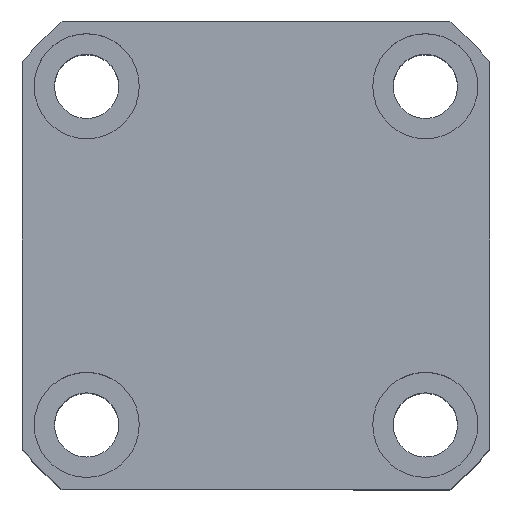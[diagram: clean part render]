
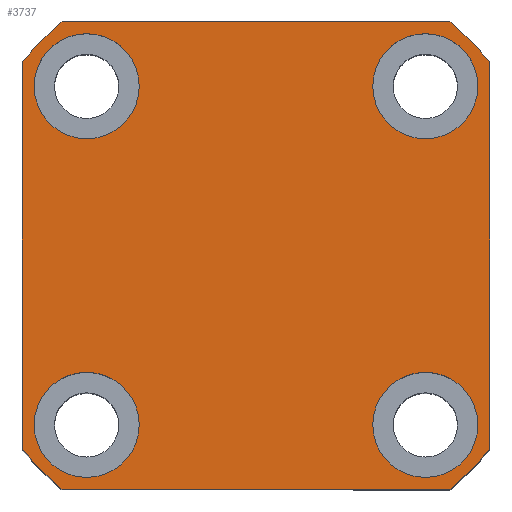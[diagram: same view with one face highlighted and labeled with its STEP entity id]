
A CAD part, top view. The second image highlights one B-rep face of the part: STEP entity #3737.
In plain terms, the highlighted planar face has unit normal (0, 0, 1).
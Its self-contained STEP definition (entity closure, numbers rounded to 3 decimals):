
#2 = VECTOR ( 'NONE', #3119, 1000. ) ;
#12 = AXIS2_PLACEMENT_3D ( 'NONE', #10689, #5508, #8918 ) ;
#29 = CIRCLE ( 'NONE', #6153, 9. ) ;
#152 = PLANE ( 'NONE',  #5388 ) ;
#227 = EDGE_CURVE ( 'NONE', #9341, #606, #569, .T. ) ;
#243 = CARTESIAN_POINT ( 'NONE',  ( 40., -33.226, 45. ) ) ;
#414 = EDGE_CURVE ( 'NONE', #7419, #4536, #8123, .T. ) ;
#569 = CIRCLE ( 'NONE', #4795, 9. ) ;
#595 = CIRCLE ( 'NONE', #5329, 52. ) ;
#606 = VERTEX_POINT ( 'NONE', #4199 ) ;
#658 = AXIS2_PLACEMENT_3D ( 'NONE', #5706, #5672, #10005 ) ;
#791 = EDGE_CURVE ( 'NONE', #5986, #887, #8665, .T. ) ;
#887 = VERTEX_POINT ( 'NONE', #243 ) ;
#917 = CIRCLE ( 'NONE', #5094, 9. ) ;
#1137 = DIRECTION ( 'NONE',  ( 0., 0., 1. ) ) ;
#1182 = AXIS2_PLACEMENT_3D ( 'NONE', #5494, #10558, #9691 ) ;
#1312 = ORIENTED_EDGE ( 'NONE', *, *, #5547, .F. ) ;
#1689 = CIRCLE ( 'NONE', #2304, 9. ) ;
#1741 = CARTESIAN_POINT ( 'NONE',  ( 20., 29., 45. ) ) ;
#1809 = EDGE_CURVE ( 'NONE', #5968, #6882, #2113, .T. ) ;
#1832 = DIRECTION ( 'NONE',  ( 1., 0., 0. ) ) ;
#1875 = AXIS2_PLACEMENT_3D ( 'NONE', #6883, #8659, #9462 ) ;
#1931 = DIRECTION ( 'NONE',  ( -1., 0., 0. ) ) ;
#1936 = ORIENTED_EDGE ( 'NONE', *, *, #10429, .T. ) ;
#2113 = CIRCLE ( 'NONE', #1875, 52. ) ;
#2130 = DIRECTION ( 'NONE',  ( 1., 0., 0. ) ) ;
#2181 = EDGE_CURVE ( 'NONE', #887, #2470, #4858, .T. ) ;
#2229 = CARTESIAN_POINT ( 'NONE',  ( -29., 29., 45. ) ) ;
#2304 = AXIS2_PLACEMENT_3D ( 'NONE', #4127, #2460, #3331 ) ;
#2305 = DIRECTION ( 'NONE',  ( 0., 0., 1. ) ) ;
#2342 = CARTESIAN_POINT ( 'NONE',  ( 0., 0., 45. ) ) ;
#2454 = CARTESIAN_POINT ( 'NONE',  ( -33.226, -40., 45. ) ) ;
#2460 = DIRECTION ( 'NONE',  ( 0., 0., 1. ) ) ;
#2470 = VERTEX_POINT ( 'NONE', #5640 ) ;
#2742 = DIRECTION ( 'NONE',  ( 1., 0., 0. ) ) ;
#2813 = ORIENTED_EDGE ( 'NONE', *, *, #6667, .T. ) ;
#2830 = DIRECTION ( 'NONE',  ( 1., 0., 0. ) ) ;
#2844 = ORIENTED_EDGE ( 'NONE', *, *, #1809, .T. ) ;
#2847 = DIRECTION ( 'NONE',  ( 0., -1., 0. ) ) ;
#2937 = ORIENTED_EDGE ( 'NONE', *, *, #227, .F. ) ;
#2954 = VERTEX_POINT ( 'NONE', #2454 ) ;
#3058 = EDGE_LOOP ( 'NONE', ( #7918, #10050 ) ) ;
#3119 = DIRECTION ( 'NONE',  ( 0., 1., 0. ) ) ;
#3331 = DIRECTION ( 'NONE',  ( 1., 0., 0. ) ) ;
#3344 = CARTESIAN_POINT ( 'NONE',  ( -38., 29., 45. ) ) ;
#3356 = CARTESIAN_POINT ( 'NONE',  ( 0., 0., 45. ) ) ;
#3391 = CARTESIAN_POINT ( 'NONE',  ( 38., 29., 45. ) ) ;
#3398 = AXIS2_PLACEMENT_3D ( 'NONE', #6262, #3691, #8745 ) ;
#3424 = FACE_OUTER_BOUND ( 'NONE', #5658, .T. ) ;
#3511 = EDGE_CURVE ( 'NONE', #606, #9341, #29, .T. ) ;
#3691 = DIRECTION ( 'NONE',  ( 0., 0., 1. ) ) ;
#3712 = DIRECTION ( 'NONE',  ( 0., 0., 1. ) ) ;
#3737 = ADVANCED_FACE ( 'NONE', ( #6167, #7888, #5384, #5643, #3424 ), #152, .T. ) ;
#3743 = CARTESIAN_POINT ( 'NONE',  ( -20., -29., 45. ) ) ;
#3771 = DIRECTION ( 'NONE',  ( 0., 0., 1. ) ) ;
#4127 = CARTESIAN_POINT ( 'NONE',  ( 29., 29., 45. ) ) ;
#4199 = CARTESIAN_POINT ( 'NONE',  ( -20., 29., 45. ) ) ;
#4536 = VERTEX_POINT ( 'NONE', #6488 ) ;
#4586 = CIRCLE ( 'NONE', #9563, 52. ) ;
#4795 = AXIS2_PLACEMENT_3D ( 'NONE', #6782, #1137, #6082 ) ;
#4858 = LINE ( 'NONE', #7332, #2 ) ;
#4983 = CARTESIAN_POINT ( 'NONE',  ( -40., -33.226, 45. ) ) ;
#5048 = AXIS2_PLACEMENT_3D ( 'NONE', #6823, #10211, #1832 ) ;
#5094 = AXIS2_PLACEMENT_3D ( 'NONE', #9497, #3712, #2830 ) ;
#5150 = VERTEX_POINT ( 'NONE', #3743 ) ;
#5214 = LINE ( 'NONE', #5270, #7978 ) ;
#5270 = CARTESIAN_POINT ( 'NONE',  ( -33.226, 40., 45. ) ) ;
#5329 = AXIS2_PLACEMENT_3D ( 'NONE', #7942, #3771, #2130 ) ;
#5384 = FACE_BOUND ( 'NONE', #10698, .T. ) ;
#5388 = AXIS2_PLACEMENT_3D ( 'NONE', #3356, #5973, #9252 ) ;
#5485 = VECTOR ( 'NONE', #2742, 1000. ) ;
#5494 = CARTESIAN_POINT ( 'NONE',  ( 29., -29., 45. ) ) ;
#5508 = DIRECTION ( 'NONE',  ( 0., 0., 1. ) ) ;
#5547 = EDGE_CURVE ( 'NONE', #5150, #9695, #8903, .T. ) ;
#5553 = EDGE_CURVE ( 'NONE', #5805, #2954, #4586, .T. ) ;
#5640 = CARTESIAN_POINT ( 'NONE',  ( 40., 33.226, 45. ) ) ;
#5643 = FACE_BOUND ( 'NONE', #3058, .T. ) ;
#5658 = EDGE_LOOP ( 'NONE', ( #2844, #9080, #7380, #8305, #8037, #7783, #1936, #2813 ) ) ;
#5659 = LINE ( 'NONE', #8487, #8014 ) ;
#5672 = DIRECTION ( 'NONE',  ( 0., 0., 1. ) ) ;
#5706 = CARTESIAN_POINT ( 'NONE',  ( -29., -29., 45. ) ) ;
#5789 = CIRCLE ( 'NONE', #5048, 9. ) ;
#5805 = VERTEX_POINT ( 'NONE', #4983 ) ;
#5924 = EDGE_LOOP ( 'NONE', ( #1312, #6126 ) ) ;
#5968 = VERTEX_POINT ( 'NONE', #6809 ) ;
#5973 = DIRECTION ( 'NONE',  ( 0., 0., 1. ) ) ;
#5986 = VERTEX_POINT ( 'NONE', #10621 ) ;
#6082 = DIRECTION ( 'NONE',  ( 1., 0., 0. ) ) ;
#6094 = EDGE_LOOP ( 'NONE', ( #9856, #6992 ) ) ;
#6126 = ORIENTED_EDGE ( 'NONE', *, *, #9707, .F. ) ;
#6153 = AXIS2_PLACEMENT_3D ( 'NONE', #2229, #2305, #8145 ) ;
#6167 = FACE_BOUND ( 'NONE', #6094, .T. ) ;
#6194 = VERTEX_POINT ( 'NONE', #6645 ) ;
#6262 = CARTESIAN_POINT ( 'NONE',  ( 0., 0., 45. ) ) ;
#6439 = EDGE_CURVE ( 'NONE', #2954, #5986, #6657, .T. ) ;
#6488 = CARTESIAN_POINT ( 'NONE',  ( 38., -29., 45. ) ) ;
#6606 = EDGE_CURVE ( 'NONE', #8488, #8178, #917, .T. ) ;
#6645 = CARTESIAN_POINT ( 'NONE',  ( 33.226, 40., 45. ) ) ;
#6657 = LINE ( 'NONE', #6908, #5485 ) ;
#6667 = EDGE_CURVE ( 'NONE', #6194, #5968, #5214, .T. ) ;
#6782 = CARTESIAN_POINT ( 'NONE',  ( -29., 29., 45. ) ) ;
#6809 = CARTESIAN_POINT ( 'NONE',  ( -33.226, 40., 45. ) ) ;
#6823 = CARTESIAN_POINT ( 'NONE',  ( 29., -29., 45. ) ) ;
#6882 = VERTEX_POINT ( 'NONE', #9284 ) ;
#6883 = CARTESIAN_POINT ( 'NONE',  ( 0., 0., 45. ) ) ;
#6908 = CARTESIAN_POINT ( 'NONE',  ( -33.226, -40., 45. ) ) ;
#6992 = ORIENTED_EDGE ( 'NONE', *, *, #414, .F. ) ;
#7193 = EDGE_CURVE ( 'NONE', #8178, #8488, #1689, .T. ) ;
#7332 = CARTESIAN_POINT ( 'NONE',  ( 40., 33.226, 45. ) ) ;
#7380 = ORIENTED_EDGE ( 'NONE', *, *, #5553, .T. ) ;
#7419 = VERTEX_POINT ( 'NONE', #9642 ) ;
#7783 = ORIENTED_EDGE ( 'NONE', *, *, #2181, .T. ) ;
#7888 = FACE_BOUND ( 'NONE', #5924, .T. ) ;
#7918 = ORIENTED_EDGE ( 'NONE', *, *, #6606, .F. ) ;
#7942 = CARTESIAN_POINT ( 'NONE',  ( 0., 0., 45. ) ) ;
#7978 = VECTOR ( 'NONE', #1931, 1000. ) ;
#8014 = VECTOR ( 'NONE', #2847, 1000. ) ;
#8037 = ORIENTED_EDGE ( 'NONE', *, *, #791, .T. ) ;
#8123 = CIRCLE ( 'NONE', #1182, 9. ) ;
#8145 = DIRECTION ( 'NONE',  ( 1., 0., 0. ) ) ;
#8178 = VERTEX_POINT ( 'NONE', #1741 ) ;
#8305 = ORIENTED_EDGE ( 'NONE', *, *, #6439, .T. ) ;
#8487 = CARTESIAN_POINT ( 'NONE',  ( -40., 33.226, 45. ) ) ;
#8488 = VERTEX_POINT ( 'NONE', #3391 ) ;
#8659 = DIRECTION ( 'NONE',  ( 0., 0., 1. ) ) ;
#8665 = CIRCLE ( 'NONE', #3398, 52. ) ;
#8745 = DIRECTION ( 'NONE',  ( 1., 0., 0. ) ) ;
#8858 = DIRECTION ( 'NONE',  ( 1., 0., 0. ) ) ;
#8885 = DIRECTION ( 'NONE',  ( 0., 0., 1. ) ) ;
#8903 = CIRCLE ( 'NONE', #12, 9. ) ;
#8918 = DIRECTION ( 'NONE',  ( 1., 0., 0. ) ) ;
#9080 = ORIENTED_EDGE ( 'NONE', *, *, #9096, .T. ) ;
#9096 = EDGE_CURVE ( 'NONE', #6882, #5805, #5659, .T. ) ;
#9233 = ORIENTED_EDGE ( 'NONE', *, *, #3511, .F. ) ;
#9252 = DIRECTION ( 'NONE',  ( 1., 0., 0. ) ) ;
#9284 = CARTESIAN_POINT ( 'NONE',  ( -40., 33.226, 45. ) ) ;
#9341 = VERTEX_POINT ( 'NONE', #3344 ) ;
#9462 = DIRECTION ( 'NONE',  ( 1., 0., 0. ) ) ;
#9497 = CARTESIAN_POINT ( 'NONE',  ( 29., 29., 45. ) ) ;
#9563 = AXIS2_PLACEMENT_3D ( 'NONE', #2342, #8885, #8858 ) ;
#9642 = CARTESIAN_POINT ( 'NONE',  ( 20., -29., 45. ) ) ;
#9691 = DIRECTION ( 'NONE',  ( 1., 0., 0. ) ) ;
#9695 = VERTEX_POINT ( 'NONE', #9825 ) ;
#9707 = EDGE_CURVE ( 'NONE', #9695, #5150, #10385, .T. ) ;
#9825 = CARTESIAN_POINT ( 'NONE',  ( -38., -29., 45. ) ) ;
#9856 = ORIENTED_EDGE ( 'NONE', *, *, #10614, .F. ) ;
#10005 = DIRECTION ( 'NONE',  ( 1., 0., 0. ) ) ;
#10050 = ORIENTED_EDGE ( 'NONE', *, *, #7193, .F. ) ;
#10211 = DIRECTION ( 'NONE',  ( 0., 0., 1. ) ) ;
#10385 = CIRCLE ( 'NONE', #658, 9. ) ;
#10429 = EDGE_CURVE ( 'NONE', #2470, #6194, #595, .T. ) ;
#10558 = DIRECTION ( 'NONE',  ( 0., 0., 1. ) ) ;
#10614 = EDGE_CURVE ( 'NONE', #4536, #7419, #5789, .T. ) ;
#10621 = CARTESIAN_POINT ( 'NONE',  ( 33.226, -40., 45. ) ) ;
#10689 = CARTESIAN_POINT ( 'NONE',  ( -29., -29., 45. ) ) ;
#10698 = EDGE_LOOP ( 'NONE', ( #9233, #2937 ) ) ;
